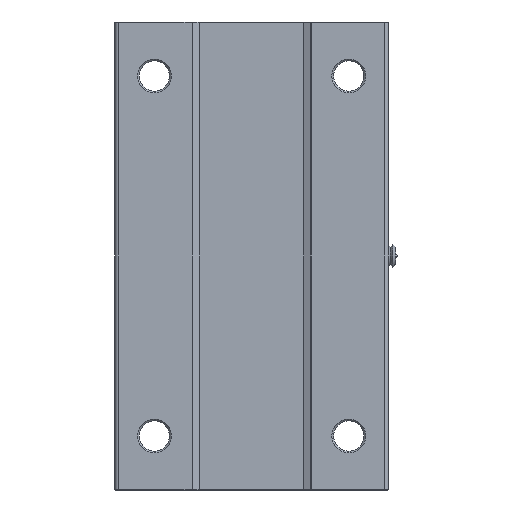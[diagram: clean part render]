
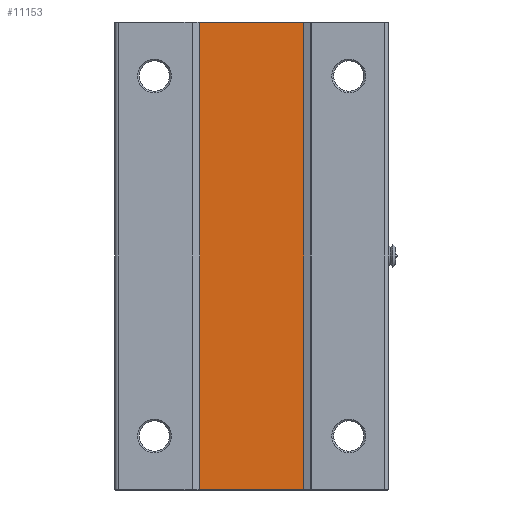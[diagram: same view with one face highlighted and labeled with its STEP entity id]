
A CAD part, front view. The second image highlights one B-rep face of the part: STEP entity #11153.
In plain terms, the highlighted planar face has unit normal (0, -1, 0).
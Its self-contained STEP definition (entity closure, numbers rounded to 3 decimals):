
#511 = CARTESIAN_POINT ( 'NONE',  ( 14.5, -25.3, 0.15 ) ) ;
#563 = CARTESIAN_POINT ( 'NONE',  ( 14.468, -25.3, 0.15 ) ) ;
#706 = ORIENTED_EDGE ( 'NONE', *, *, #15710, .T. ) ;
#2012 = LINE ( 'NONE', #14730, #8463 ) ;
#2392 = VECTOR ( 'NONE', #11161, 1000. ) ;
#2420 = CARTESIAN_POINT ( 'NONE',  ( -14.468, -25.3, 129.85 ) ) ;
#2497 = ORIENTED_EDGE ( 'NONE', *, *, #3196, .T. ) ;
#3196 = EDGE_CURVE ( 'NONE', #4208, #15675, #12138, .T. ) ;
#3617 = EDGE_LOOP ( 'NONE', ( #2497, #706, #11863, #13405 ) ) ;
#3708 = CARTESIAN_POINT ( 'NONE',  ( -14.5, -25.3, 129.85 ) ) ;
#4119 = EDGE_CURVE ( 'NONE', #11483, #4208, #2012, .T. ) ;
#4208 = VERTEX_POINT ( 'NONE', #5510 ) ;
#4512 = CARTESIAN_POINT ( 'NONE',  ( -14.5, -25.3, 130. ) ) ;
#5009 = AXIS2_PLACEMENT_3D ( 'NONE', #4512, #14319, #6988 ) ;
#5499 = VECTOR ( 'NONE', #9214, 1000. ) ;
#5510 = CARTESIAN_POINT ( 'NONE',  ( -14.468, -25.3, 0.15 ) ) ;
#5892 = CARTESIAN_POINT ( 'NONE',  ( 14.468, -25.3, 129.85 ) ) ;
#6988 = DIRECTION ( 'NONE',  ( -1., 0., 0. ) ) ;
#7674 = VERTEX_POINT ( 'NONE', #5892 ) ;
#7885 = FACE_OUTER_BOUND ( 'NONE', #3617, .T. ) ;
#8463 = VECTOR ( 'NONE', #9221, 1000. ) ;
#9214 = DIRECTION ( 'NONE',  ( 0., 0., 1. ) ) ;
#9221 = DIRECTION ( 'NONE',  ( 0., 0., -1. ) ) ;
#9391 = PLANE ( 'NONE',  #5009 ) ;
#11153 = ADVANCED_FACE ( 'NONE', ( #7885 ), #9391, .F. ) ;
#11161 = DIRECTION ( 'NONE',  ( 1., 0., 0. ) ) ;
#11483 = VERTEX_POINT ( 'NONE', #2420 ) ;
#11573 = CARTESIAN_POINT ( 'NONE',  ( 14.468, -25.3, 130. ) ) ;
#11863 = ORIENTED_EDGE ( 'NONE', *, *, #14915, .T. ) ;
#12138 = LINE ( 'NONE', #511, #2392 ) ;
#13405 = ORIENTED_EDGE ( 'NONE', *, *, #4119, .T. ) ;
#13466 = DIRECTION ( 'NONE',  ( -1., 0., 0. ) ) ;
#14319 = DIRECTION ( 'NONE',  ( 0., 1., 0. ) ) ;
#14730 = CARTESIAN_POINT ( 'NONE',  ( -14.468, -25.3, 0. ) ) ;
#14915 = EDGE_CURVE ( 'NONE', #7674, #11483, #15533, .T. ) ;
#15158 = VECTOR ( 'NONE', #13466, 1000. ) ;
#15292 = LINE ( 'NONE', #11573, #5499 ) ;
#15533 = LINE ( 'NONE', #3708, #15158 ) ;
#15675 = VERTEX_POINT ( 'NONE', #563 ) ;
#15710 = EDGE_CURVE ( 'NONE', #15675, #7674, #15292, .T. ) ;
